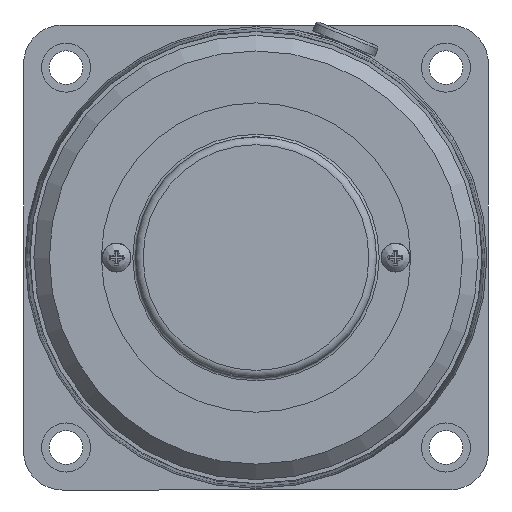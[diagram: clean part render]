
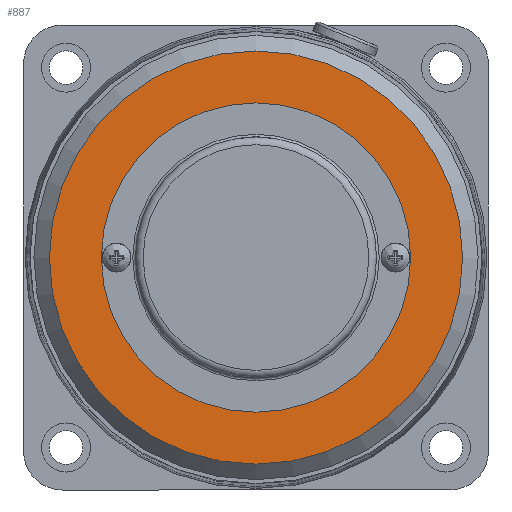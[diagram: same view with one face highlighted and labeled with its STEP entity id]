
A CAD part, left-side view. The second image highlights one B-rep face of the part: STEP entity #887.
In plain terms, the highlighted planar face has unit normal (-1, 0, 0).
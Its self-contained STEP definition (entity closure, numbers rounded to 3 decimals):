
#687=CARTESIAN_POINT('',(0.,-29.95,0.));
#688=VERTEX_POINT('',#687);
#689=CARTESIAN_POINT('',(0.,0.,0.));
#690=DIRECTION('',(1.0,0.0,0.0));
#691=DIRECTION('',(0.0,1.0,0.0));
#692=AXIS2_PLACEMENT_3D('',#689,#690,#691);
#693=CIRCLE('',#692,29.95);
#694=EDGE_CURVE('',#688,#688,#693,.T.);
#868=CARTESIAN_POINT('',(0.,20.,0.0));
#869=DIRECTION('',(-1.0,0.0,0.0));
#870=DIRECTION('',(0.0,0.0,1.0));
#871=AXIS2_PLACEMENT_3D('',#868,#869,#870);
#872=PLANE('',#871);
#873=CARTESIAN_POINT('',(0.,40.,0.0));
#874=VERTEX_POINT('',#873);
#875=CARTESIAN_POINT('',(0.,0.,0.0));
#876=DIRECTION('',(1.0,0.0,0.0));
#877=DIRECTION('',(0.0,1.0,0.0));
#878=AXIS2_PLACEMENT_3D('',#875,#876,#877);
#879=CIRCLE('',#878,40.);
#880=EDGE_CURVE('',#874,#874,#879,.T.);
#881=ORIENTED_EDGE('',*,*,#880,.F.);
#882=EDGE_LOOP('',(#881));
#883=FACE_OUTER_BOUND('',#882,.T.);
#884=ORIENTED_EDGE('',*,*,#694,.T.);
#885=EDGE_LOOP('',(#884));
#886=FACE_BOUND('',#885,.T.);
#887=ADVANCED_FACE('',(#883,#886),#872,.T.);
